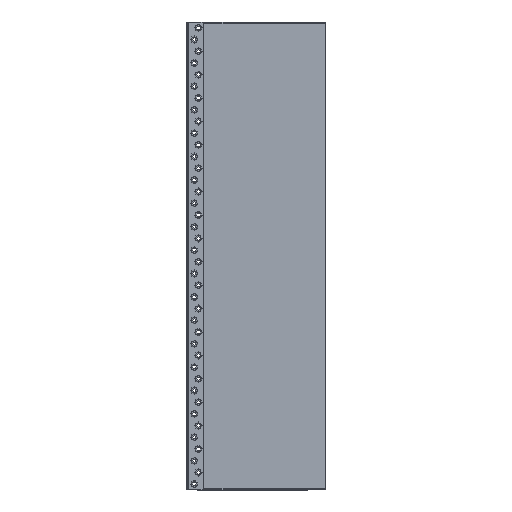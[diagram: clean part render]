
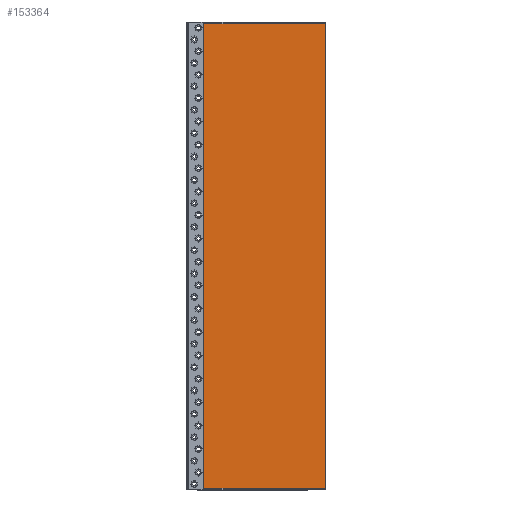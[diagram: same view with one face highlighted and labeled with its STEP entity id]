
A CAD part, top view. The second image highlights one B-rep face of the part: STEP entity #153364.
In plain terms, the highlighted planar face has unit normal (0, 0, 1).
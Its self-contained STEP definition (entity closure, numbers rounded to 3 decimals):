
#153050 = VERTEX_POINT('',#153051);
#153051 = CARTESIAN_POINT('',(11617.268,3.,
    0.));
#153058 = PLANE('',#153059);
#153059 = AXIS2_PLACEMENT_3D('',#153060,#153061,#153062);
#153060 = CARTESIAN_POINT('',(11617.268,3.,
    -25.));
#153061 = DIRECTION('',(0.,1.,0.));
#153062 = DIRECTION('',(1.,0.,0.));
#153070 = PLANE('',#153071);
#153071 = AXIS2_PLACEMENT_3D('',#153072,#153073,#153074);
#153072 = CARTESIAN_POINT('',(11617.268,797.,
    -25.));
#153073 = DIRECTION('',(1.,0.,0.));
#153074 = DIRECTION('',(0.,-1.,0.));
#153082 = EDGE_CURVE('',#153050,#153083,#153085,.T.);
#153083 = VERTEX_POINT('',#153084);
#153084 = CARTESIAN_POINT('',(11824.768,3.,
    0.));
#153085 = SURFACE_CURVE('',#153086,(#153090,#153097),.PCURVE_S1.);
#153086 = LINE('',#153087,#153088);
#153087 = CARTESIAN_POINT('',(11617.268,3.,
    0.));
#153088 = VECTOR('',#153089,1.);
#153089 = DIRECTION('',(1.,0.,0.));
#153090 = PCURVE('',#153058,#153091);
#153091 = DEFINITIONAL_REPRESENTATION('',(#153092),#153096);
#153092 = LINE('',#153093,#153094);
#153093 = CARTESIAN_POINT('',(0.,-25.));
#153094 = VECTOR('',#153095,1.);
#153095 = DIRECTION('',(1.,0.));
#153096 = ( GEOMETRIC_REPRESENTATION_CONTEXT(2) 
PARAMETRIC_REPRESENTATION_CONTEXT() REPRESENTATION_CONTEXT('2D SPACE',''
  ) );
#153097 = PCURVE('',#153098,#153103);
#153098 = PLANE('',#153099);
#153099 = AXIS2_PLACEMENT_3D('',#153100,#153101,#153102);
#153100 = CARTESIAN_POINT('',(11721.018,400.,
    0.));
#153101 = DIRECTION('',(0.,0.,1.));
#153102 = DIRECTION('',(1.,0.,0.));
#153103 = DEFINITIONAL_REPRESENTATION('',(#153104),#153108);
#153104 = LINE('',#153105,#153106);
#153105 = CARTESIAN_POINT('',(-103.75,-397.));
#153106 = VECTOR('',#153107,1.);
#153107 = DIRECTION('',(1.,0.));
#153108 = ( GEOMETRIC_REPRESENTATION_CONTEXT(2) 
PARAMETRIC_REPRESENTATION_CONTEXT() REPRESENTATION_CONTEXT('2D SPACE',''
  ) );
#153126 = PLANE('',#153127);
#153127 = AXIS2_PLACEMENT_3D('',#153128,#153129,#153130);
#153128 = CARTESIAN_POINT('',(11824.768,3.,
    -25.));
#153129 = DIRECTION('',(-1.,0.,0.));
#153130 = DIRECTION('',(0.,1.,0.));
#153168 = EDGE_CURVE('',#153083,#153169,#153171,.T.);
#153169 = VERTEX_POINT('',#153170);
#153170 = CARTESIAN_POINT('',(11824.768,797.,
    0.));
#153171 = SURFACE_CURVE('',#153172,(#153176,#153183),.PCURVE_S1.);
#153172 = LINE('',#153173,#153174);
#153173 = CARTESIAN_POINT('',(11824.768,3.,
    0.));
#153174 = VECTOR('',#153175,1.);
#153175 = DIRECTION('',(0.,1.,0.));
#153176 = PCURVE('',#153126,#153177);
#153177 = DEFINITIONAL_REPRESENTATION('',(#153178),#153182);
#153178 = LINE('',#153179,#153180);
#153179 = CARTESIAN_POINT('',(0.,-25.));
#153180 = VECTOR('',#153181,1.);
#153181 = DIRECTION('',(1.,0.));
#153182 = ( GEOMETRIC_REPRESENTATION_CONTEXT(2) 
PARAMETRIC_REPRESENTATION_CONTEXT() REPRESENTATION_CONTEXT('2D SPACE',''
  ) );
#153183 = PCURVE('',#153098,#153184);
#153184 = DEFINITIONAL_REPRESENTATION('',(#153185),#153189);
#153185 = LINE('',#153186,#153187);
#153186 = CARTESIAN_POINT('',(103.75,-397.));
#153187 = VECTOR('',#153188,1.);
#153188 = DIRECTION('',(0.,1.));
#153189 = ( GEOMETRIC_REPRESENTATION_CONTEXT(2) 
PARAMETRIC_REPRESENTATION_CONTEXT() REPRESENTATION_CONTEXT('2D SPACE',''
  ) );
#153207 = PLANE('',#153208);
#153208 = AXIS2_PLACEMENT_3D('',#153209,#153210,#153211);
#153209 = CARTESIAN_POINT('',(11824.768,797.,
    -25.));
#153210 = DIRECTION('',(0.,-1.,0.));
#153211 = DIRECTION('',(-1.,0.,0.));
#153244 = EDGE_CURVE('',#153169,#153245,#153247,.T.);
#153245 = VERTEX_POINT('',#153246);
#153246 = CARTESIAN_POINT('',(11617.268,797.,
    0.));
#153247 = SURFACE_CURVE('',#153248,(#153252,#153259),.PCURVE_S1.);
#153248 = LINE('',#153249,#153250);
#153249 = CARTESIAN_POINT('',(11824.768,797.,
    0.));
#153250 = VECTOR('',#153251,1.);
#153251 = DIRECTION('',(-1.,0.,0.));
#153252 = PCURVE('',#153207,#153253);
#153253 = DEFINITIONAL_REPRESENTATION('',(#153254),#153258);
#153254 = LINE('',#153255,#153256);
#153255 = CARTESIAN_POINT('',(0.,-25.));
#153256 = VECTOR('',#153257,1.);
#153257 = DIRECTION('',(1.,0.));
#153258 = ( GEOMETRIC_REPRESENTATION_CONTEXT(2) 
PARAMETRIC_REPRESENTATION_CONTEXT() REPRESENTATION_CONTEXT('2D SPACE',''
  ) );
#153259 = PCURVE('',#153098,#153260);
#153260 = DEFINITIONAL_REPRESENTATION('',(#153261),#153265);
#153261 = LINE('',#153262,#153263);
#153262 = CARTESIAN_POINT('',(103.75,397.));
#153263 = VECTOR('',#153264,1.);
#153264 = DIRECTION('',(-1.,0.));
#153265 = ( GEOMETRIC_REPRESENTATION_CONTEXT(2) 
PARAMETRIC_REPRESENTATION_CONTEXT() REPRESENTATION_CONTEXT('2D SPACE',''
  ) );
#153315 = EDGE_CURVE('',#153245,#153050,#153316,.T.);
#153316 = SURFACE_CURVE('',#153317,(#153321,#153328),.PCURVE_S1.);
#153317 = LINE('',#153318,#153319);
#153318 = CARTESIAN_POINT('',(11617.268,797.,
    0.));
#153319 = VECTOR('',#153320,1.);
#153320 = DIRECTION('',(0.,-1.,0.));
#153321 = PCURVE('',#153070,#153322);
#153322 = DEFINITIONAL_REPRESENTATION('',(#153323),#153327);
#153323 = LINE('',#153324,#153325);
#153324 = CARTESIAN_POINT('',(0.,-25.));
#153325 = VECTOR('',#153326,1.);
#153326 = DIRECTION('',(1.,0.));
#153327 = ( GEOMETRIC_REPRESENTATION_CONTEXT(2) 
PARAMETRIC_REPRESENTATION_CONTEXT() REPRESENTATION_CONTEXT('2D SPACE',''
  ) );
#153328 = PCURVE('',#153098,#153329);
#153329 = DEFINITIONAL_REPRESENTATION('',(#153330),#153334);
#153330 = LINE('',#153331,#153332);
#153331 = CARTESIAN_POINT('',(-103.75,397.));
#153332 = VECTOR('',#153333,1.);
#153333 = DIRECTION('',(0.,-1.));
#153334 = ( GEOMETRIC_REPRESENTATION_CONTEXT(2) 
PARAMETRIC_REPRESENTATION_CONTEXT() REPRESENTATION_CONTEXT('2D SPACE',''
  ) );
#153364 = ADVANCED_FACE('',(#153365),#153098,.T.);
#153365 = FACE_BOUND('',#153366,.T.);
#153366 = EDGE_LOOP('',(#153367,#153368,#153369,#153370));
#153367 = ORIENTED_EDGE('',*,*,#153082,.T.);
#153368 = ORIENTED_EDGE('',*,*,#153168,.T.);
#153369 = ORIENTED_EDGE('',*,*,#153244,.T.);
#153370 = ORIENTED_EDGE('',*,*,#153315,.T.);
